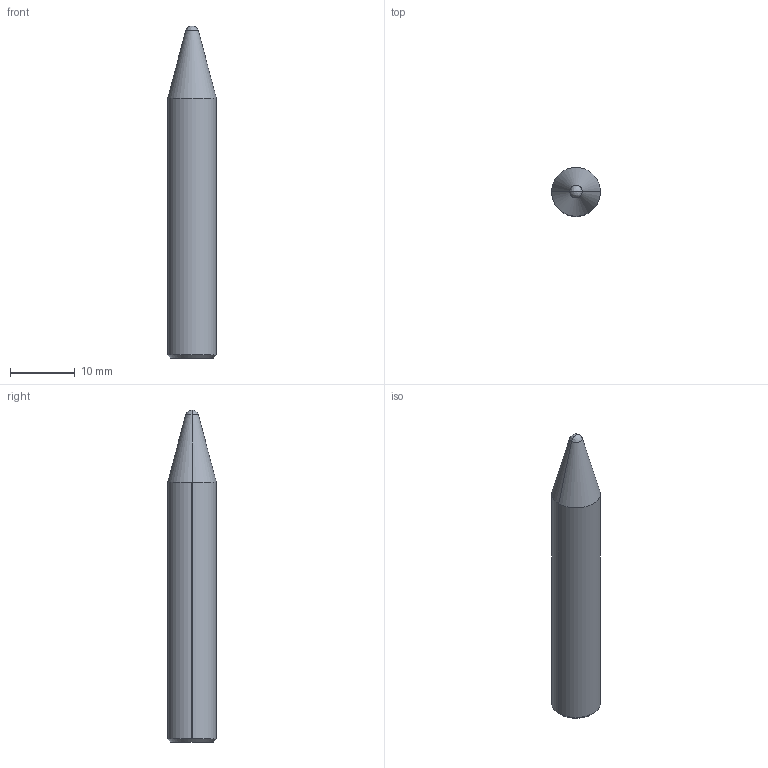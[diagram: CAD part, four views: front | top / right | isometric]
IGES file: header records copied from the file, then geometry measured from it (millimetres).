
Global section: file name: E:\UnigraphicsGraphicData\MISUMI_PRESS-PARTS\IGES\3d_snsth8-p7.50-b40_02973_r00.igs; native system: NX V5.0; preprocessor: UGS NX IGES V5.0; author: MISUMI; date: 20110105.162856; units: millimetre
Bounding box: 7.5 x 7.5 x 51.13 mm (x, y, z)
Surface area: 1300.6 mm2 (no closed solid volume)
Topology: 0 solids, 0 shells, 12 faces, 64 edges, 62 vertices
Faces by surface type: bspline 12
